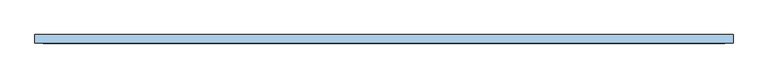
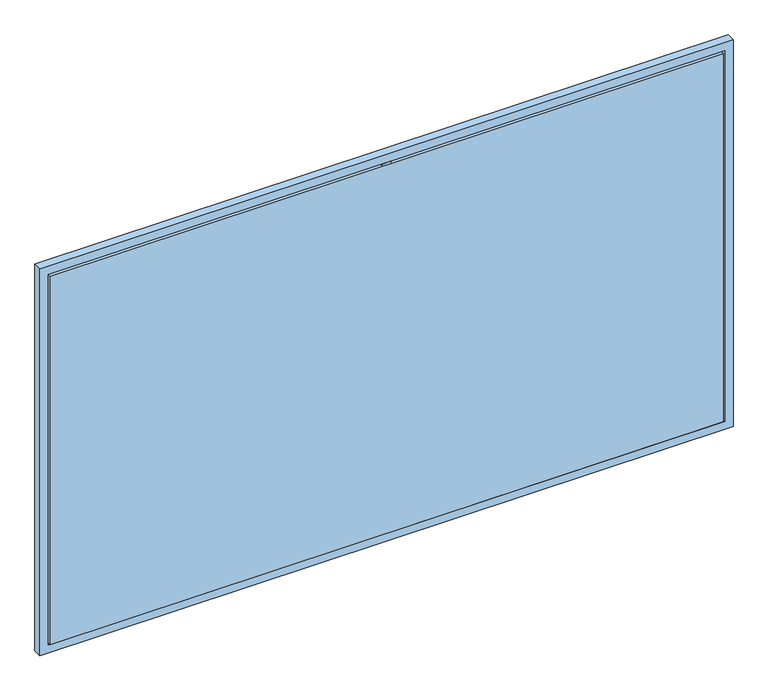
"""IFC4 building model written with IfcOpenShell, lengths in millimetres: window geometry, 2_09_Окно_Остекление : Тип 1."""

from ifc_helpers import new_model, si_unit, frame, origin, place, context, project, spatial, polyline, outline, extrude, source, transform, mapped, element, save


def window_96b263d5(model_context):
    return source(origin(), model_context, "Body", "SweptSolid", [
        extrude(outline(polyline([(-1060.0, 125.0), (1310.0, 125.0), (1310.0, 95.0), (-1060.0, 95.0), (-1060.0, 125.0)])), frame((0.0, 0.0, 960.0), z_axis=(0.0, 0.0, 1.0), x_axis=(1.0, 0.0, 0.0)), (0.0, 0.0, 1.0), 1370.0),
        extrude(outline(polyline([(140.0, 125.0), (140.0, 95.0), (110.0, 95.0), (110.0, 125.0), (140.0, 125.0)])), frame((0.0, 0.0, 960.0), z_axis=(0.0, 0.0, 1.0), x_axis=(1.0, 0.0, 0.0)), (0.0, 0.0, 1.0), 1380.0),
        extrude(outline(polyline([(2370.0, 1345.0), (2370.0, -1095.0), (930.0, -1095.0), (930.0, 1345.0), (2370.0, 1345.0)]), holes=[polyline([(960.0, 1315.0), (960.0, -1065.0), (2340.0, -1065.0), (2340.0, 1315.0), (960.0, 1315.0)])]), frame((0.0, 95.0, 0.0), z_axis=(0.0, 1.0, 0.0), x_axis=(0.0, 0.0, 1.0)), (0.0, 0.0, 1.0), 30.0),
    ])


if __name__ == "__main__":
    model = new_model("IFC4")
    model_context = context("Model", 3, world=origin())
    ifc_project = project(units=[si_unit("LENGTHUNIT", "METRE", prefix="MILLI")], contexts=[model_context])
    site = spatial("IfcSite", under=ifc_project)
    building = spatial("IfcBuilding", under=site)
    placement = place(None, origin())
    window_shape = window_96b263d5(model_context)
    element("IfcWindow", 1, ObjectType="2_09_Окно_Остекление : Тип 1", at=placement, inside=building, context=model_context, shape_type="MappedRepresentation", body=[
        mapped(window_shape, transform((0.0, 0.0, 0.0), x_axis=(1.0, 0.0, 0.0), y_axis=(0.0, 1.0, 0.0), z_axis=(0.0, 0.0, 1.0))),
    ])
    save(model, "model.ifc")
